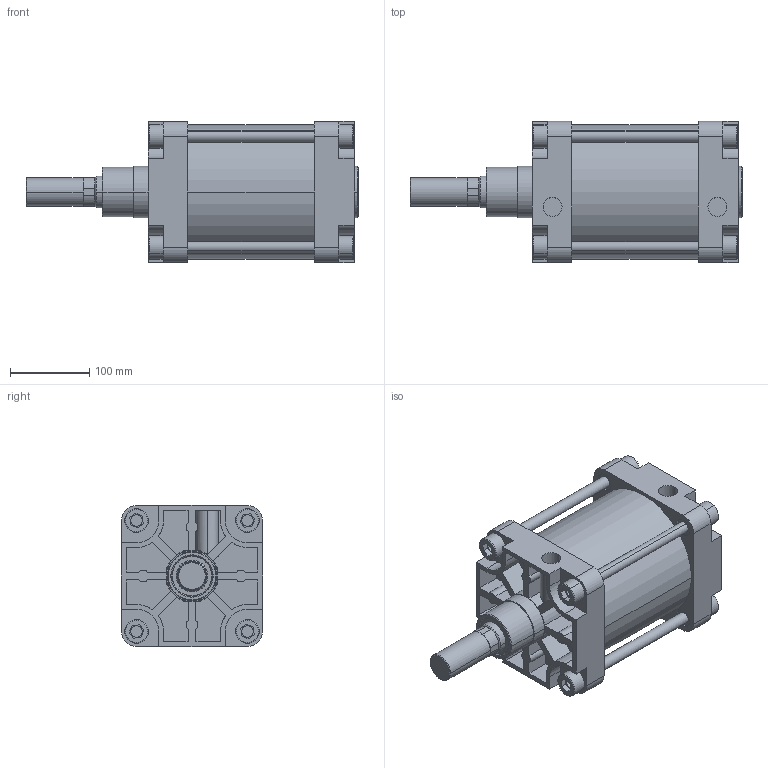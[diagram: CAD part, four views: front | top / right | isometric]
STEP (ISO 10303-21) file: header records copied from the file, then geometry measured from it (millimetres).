
FILE_DESCRIPTION(('CATIA V5 STEP Exchange'),'2;1');
FILE_NAME('D:\stp file for catalog\PNC\160\PNC 160-40-80.stp','2015-10-14T10:46:41+00:00',('none'),('none'),'Version 5-6 Release 2012','CATIA V5 STEP AP203','none');
FILE_SCHEMA(('CONFIG_CONTROL_DESIGN'));
Length unit declared in the file: millimetre
Products named in the file (1): PNC 160-40-80-00
Assembly tree (2 placements, depth 2):
  PNC 160-40-80-00
    #58
    #14957
Bounding box: 419 x 178 x 178 mm (x, y, z)
Volume: 4593768.1 mm3; surface area: 684359.8 mm2
Topology: 6 solids, 6 shells, 583 faces, 1428 edges, 932 vertices
Faces by surface type: plane 349, cylinder 186, torus 26, extrusion 16, cone 6
Entity records: 15847 total; most frequent: CARTESIAN_POINT 3275, ORIENTED_EDGE 2856, DIRECTION 1940, EDGE_CURVE 1428, VERTEX_POINT 932, VECTOR 930, LINE 914, AXIS2_PLACEMENT_3D 715
